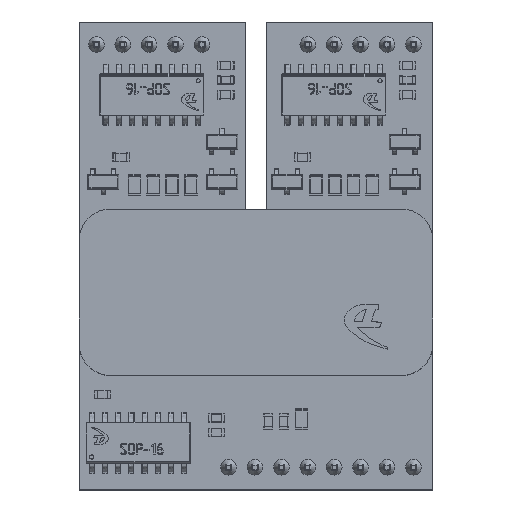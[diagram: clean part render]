
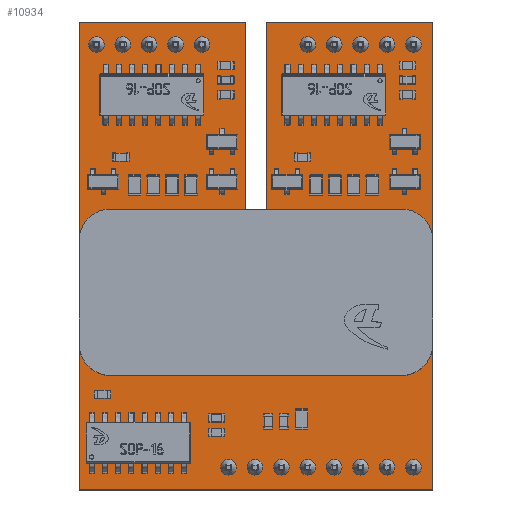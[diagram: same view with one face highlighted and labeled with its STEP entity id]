
A CAD part, top view. The second image highlights one B-rep face of the part: STEP entity #10934.
In plain terms, the highlighted planar face has unit normal (0, 0, 1).
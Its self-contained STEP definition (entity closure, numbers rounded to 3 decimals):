
#10934=ADVANCED_FACE('',(#25860,#25862,#25864,#25866,#25868,#25870,#25872,#25874,
#25876,#25878,#25880,#25882,#25884,#25886,#25888,#25890,#25892,#25894,#25896),#25898,
.T.);
#25860=FACE_BOUND('',#25861,.T.);
#25861=EDGE_LOOP('',(#53897,#53898,#53899,#53900,#53901,#53902,#53903,#53904));
#25862=FACE_BOUND('',#25863,.T.);
#25863=EDGE_LOOP('',(#53905));
#25864=FACE_BOUND('',#25865,.T.);
#25865=EDGE_LOOP('',(#53906));
#25866=FACE_BOUND('',#25867,.T.);
#25867=EDGE_LOOP('',(#53907));
#25868=FACE_BOUND('',#25869,.T.);
#25869=EDGE_LOOP('',(#53908));
#25870=FACE_BOUND('',#25871,.T.);
#25871=EDGE_LOOP('',(#53909));
#25872=FACE_BOUND('',#25873,.T.);
#25873=EDGE_LOOP('',(#53910));
#25874=FACE_BOUND('',#25875,.T.);
#25875=EDGE_LOOP('',(#53911));
#25876=FACE_BOUND('',#25877,.T.);
#25877=EDGE_LOOP('',(#53912));
#25878=FACE_BOUND('',#25879,.T.);
#25879=EDGE_LOOP('',(#53913));
#25880=FACE_BOUND('',#25881,.T.);
#25881=EDGE_LOOP('',(#53914));
#25882=FACE_BOUND('',#25883,.T.);
#25883=EDGE_LOOP('',(#53915));
#25884=FACE_BOUND('',#25885,.T.);
#25885=EDGE_LOOP('',(#53916));
#25886=FACE_BOUND('',#25887,.T.);
#25887=EDGE_LOOP('',(#53917));
#25888=FACE_BOUND('',#25889,.T.);
#25889=EDGE_LOOP('',(#53918));
#25890=FACE_BOUND('',#25891,.T.);
#25891=EDGE_LOOP('',(#53919));
#25892=FACE_BOUND('',#25893,.T.);
#25893=EDGE_LOOP('',(#53920));
#25894=FACE_BOUND('',#25895,.T.);
#25895=EDGE_LOOP('',(#53921));
#25896=FACE_BOUND('',#25897,.T.);
#25897=EDGE_LOOP('',(#53922));
#25898=PLANE('',#25899);
#25899=AXIS2_PLACEMENT_3D('',#25900,#25901,#25902);
#25900=CARTESIAN_POINT('',(0.,0.,1.5));
#25901=DIRECTION('',(0.,0.,1.));
#25902=DIRECTION('',(0.,1.,0.));
#53897=ORIENTED_EDGE('',*,*,#68489,.T.);
#53898=ORIENTED_EDGE('',*,*,#68504,.T.);
#53899=ORIENTED_EDGE('',*,*,#68503,.T.);
#53900=ORIENTED_EDGE('',*,*,#68500,.T.);
#53901=ORIENTED_EDGE('',*,*,#68498,.T.);
#53902=ORIENTED_EDGE('',*,*,#68496,.T.);
#53903=ORIENTED_EDGE('',*,*,#68494,.T.);
#53904=ORIENTED_EDGE('',*,*,#68493,.T.);
#53905=ORIENTED_EDGE('',*,*,#68665,.F.);
#53906=ORIENTED_EDGE('',*,*,#68666,.F.);
#53907=ORIENTED_EDGE('',*,*,#68667,.F.);
#53908=ORIENTED_EDGE('',*,*,#68668,.F.);
#53909=ORIENTED_EDGE('',*,*,#68669,.F.);
#53910=ORIENTED_EDGE('',*,*,#68670,.F.);
#53911=ORIENTED_EDGE('',*,*,#68671,.F.);
#53912=ORIENTED_EDGE('',*,*,#68672,.F.);
#53913=ORIENTED_EDGE('',*,*,#68673,.F.);
#53914=ORIENTED_EDGE('',*,*,#68674,.F.);
#53915=ORIENTED_EDGE('',*,*,#68675,.F.);
#53916=ORIENTED_EDGE('',*,*,#68676,.F.);
#53917=ORIENTED_EDGE('',*,*,#68677,.F.);
#53918=ORIENTED_EDGE('',*,*,#68678,.F.);
#53919=ORIENTED_EDGE('',*,*,#68679,.F.);
#53920=ORIENTED_EDGE('',*,*,#68680,.F.);
#53921=ORIENTED_EDGE('',*,*,#68681,.F.);
#53922=ORIENTED_EDGE('',*,*,#68682,.F.);
#68489=EDGE_CURVE('',#74931,#74932,#74933,.F.);
#68493=EDGE_CURVE('',#74936,#74931,#74938,.F.);
#68494=EDGE_CURVE('',#74939,#74936,#74940,.T.);
#68496=EDGE_CURVE('',#74942,#74939,#74943,.T.);
#68498=EDGE_CURVE('',#74945,#74942,#74946,.T.);
#68500=EDGE_CURVE('',#74948,#74945,#74949,.T.);
#68503=EDGE_CURVE('',#74951,#74948,#74953,.T.);
#68504=EDGE_CURVE('',#74932,#74951,#74954,.F.);
#68665=EDGE_CURVE('',#75195,#75195,#75196,.F.);
#68666=EDGE_CURVE('',#75197,#75197,#75198,.F.);
#68667=EDGE_CURVE('',#75199,#75199,#75200,.F.);
#68668=EDGE_CURVE('',#75201,#75201,#75202,.F.);
#68669=EDGE_CURVE('',#75203,#75203,#75204,.F.);
#68670=EDGE_CURVE('',#75205,#75205,#75206,.F.);
#68671=EDGE_CURVE('',#75207,#75207,#75208,.F.);
#68672=EDGE_CURVE('',#75209,#75209,#75210,.F.);
#68673=EDGE_CURVE('',#75211,#75211,#75212,.F.);
#68674=EDGE_CURVE('',#75213,#75213,#75214,.F.);
#68675=EDGE_CURVE('',#75215,#75215,#75216,.T.);
#68676=EDGE_CURVE('',#75217,#75217,#75218,.T.);
#68677=EDGE_CURVE('',#75219,#75219,#75220,.T.);
#68678=EDGE_CURVE('',#75221,#75221,#75222,.T.);
#68679=EDGE_CURVE('',#75223,#75223,#75224,.T.);
#68680=EDGE_CURVE('',#75225,#75225,#75226,.T.);
#68681=EDGE_CURVE('',#75227,#75227,#75228,.T.);
#68682=EDGE_CURVE('',#75229,#75229,#75230,.T.);
#74931=VERTEX_POINT('',#87999);
#74932=VERTEX_POINT('',#88000);
#74933=LINE('',#88001,#88002);
#74936=VERTEX_POINT('',#88010);
#74938=LINE('',#88014,#88015);
#74939=VERTEX_POINT('',#88017);
#74940=LINE('',#88018,#88019);
#74942=VERTEX_POINT('',#88024);
#74943=LINE('',#88025,#88026);
#74945=VERTEX_POINT('',#88031);
#74946=LINE('',#88032,#88033);
#74948=VERTEX_POINT('',#88038);
#74949=LINE('',#88039,#88040);
#74951=VERTEX_POINT('',#88045);
#74953=LINE('',#88049,#88050);
#74954=LINE('',#88052,#88053);
#75195=VERTEX_POINT('',#88655);
#75196=CIRCLE('',#88656,0.75);
#75197=VERTEX_POINT('',#88660);
#75198=CIRCLE('',#88661,0.75);
#75199=VERTEX_POINT('',#88665);
#75200=CIRCLE('',#88666,0.75);
#75201=VERTEX_POINT('',#88670);
#75202=CIRCLE('',#88671,0.75);
#75203=VERTEX_POINT('',#88675);
#75204=CIRCLE('',#88676,0.75);
#75205=VERTEX_POINT('',#88680);
#75206=CIRCLE('',#88681,0.75);
#75207=VERTEX_POINT('',#88685);
#75208=CIRCLE('',#88686,0.75);
#75209=VERTEX_POINT('',#88690);
#75210=CIRCLE('',#88691,0.75);
#75211=VERTEX_POINT('',#88695);
#75212=CIRCLE('',#88696,0.75);
#75213=VERTEX_POINT('',#88700);
#75214=CIRCLE('',#88701,0.75);
#75215=VERTEX_POINT('',#88705);
#75216=CIRCLE('',#88706,0.75);
#75217=VERTEX_POINT('',#88710);
#75218=CIRCLE('',#88711,0.75);
#75219=VERTEX_POINT('',#88715);
#75220=CIRCLE('',#88716,0.75);
#75221=VERTEX_POINT('',#88720);
#75222=CIRCLE('',#88721,0.75);
#75223=VERTEX_POINT('',#88725);
#75224=CIRCLE('',#88726,0.75);
#75225=VERTEX_POINT('',#88730);
#75226=CIRCLE('',#88731,0.75);
#75227=VERTEX_POINT('',#88735);
#75228=CIRCLE('',#88736,0.75);
#75229=VERTEX_POINT('',#88740);
#75230=CIRCLE('',#88741,0.75);
#87999=CARTESIAN_POINT('',(1.,4.5,1.5));
#88000=CARTESIAN_POINT('',(-1.,4.5,1.5));
#88001=CARTESIAN_POINT('',(-1.,4.5,1.5));
#88002=VECTOR('',#88003,1.);
#88003=DIRECTION('',(1.,0.,0.));
#88010=CARTESIAN_POINT('',(1.,22.5,1.5));
#88014=CARTESIAN_POINT('',(1.,4.5,1.5));
#88015=VECTOR('',#88016,1.);
#88016=DIRECTION('',(0.,1.,0.));
#88017=CARTESIAN_POINT('',(17.,22.5,1.5));
#88018=CARTESIAN_POINT('',(17.,22.5,1.5));
#88019=VECTOR('',#88020,1.);
#88020=DIRECTION('',(-1.,0.,0.));
#88024=CARTESIAN_POINT('',(17.,-22.5,1.5));
#88025=CARTESIAN_POINT('',(17.,-22.5,1.5));
#88026=VECTOR('',#88027,1.);
#88027=DIRECTION('',(0.,1.,0.));
#88031=CARTESIAN_POINT('',(-17.,-22.5,1.5));
#88032=CARTESIAN_POINT('',(-17.,-22.5,1.5));
#88033=VECTOR('',#88034,1.);
#88034=DIRECTION('',(1.,0.,0.));
#88038=CARTESIAN_POINT('',(-17.,22.5,1.5));
#88039=CARTESIAN_POINT('',(-17.,22.5,1.5));
#88040=VECTOR('',#88041,1.);
#88041=DIRECTION('',(0.,-1.,0.));
#88045=CARTESIAN_POINT('',(-1.,22.5,1.5));
#88049=CARTESIAN_POINT('',(-1.,22.5,1.5));
#88050=VECTOR('',#88051,1.);
#88051=DIRECTION('',(-1.,0.,0.));
#88052=CARTESIAN_POINT('',(-1.,22.5,1.5));
#88053=VECTOR('',#88054,1.);
#88054=DIRECTION('',(0.,-1.,0.));
#88655=CARTESIAN_POINT('',(-13.56,20.32,1.5));
#88656=AXIS2_PLACEMENT_3D('',#88657,#88658,#88659);
#88657=CARTESIAN_POINT('',(-12.81,20.32,1.5));
#88658=DIRECTION('',(0.,0.,-1.));
#88659=DIRECTION('',(-1.,0.,0.));
#88660=CARTESIAN_POINT('',(-11.02,20.32,1.5));
#88661=AXIS2_PLACEMENT_3D('',#88662,#88663,#88664);
#88662=CARTESIAN_POINT('',(-10.27,20.32,1.5));
#88663=DIRECTION('',(0.,0.,-1.));
#88664=DIRECTION('',(-1.,0.,0.));
#88665=CARTESIAN_POINT('',(-8.48,20.32,1.5));
#88666=AXIS2_PLACEMENT_3D('',#88667,#88668,#88669);
#88667=CARTESIAN_POINT('',(-7.73,20.32,1.5));
#88668=DIRECTION('',(0.,0.,-1.));
#88669=DIRECTION('',(-1.,0.,0.));
#88670=CARTESIAN_POINT('',(-5.94,20.32,1.5));
#88671=AXIS2_PLACEMENT_3D('',#88672,#88673,#88674);
#88672=CARTESIAN_POINT('',(-5.19,20.32,1.5));
#88673=DIRECTION('',(0.,0.,-1.));
#88674=DIRECTION('',(-1.,0.,0.));
#88675=CARTESIAN_POINT('',(-16.1,20.32,1.5));
#88676=AXIS2_PLACEMENT_3D('',#88677,#88678,#88679);
#88677=CARTESIAN_POINT('',(-15.35,20.32,1.5));
#88678=DIRECTION('',(0.,0.,-1.));
#88679=DIRECTION('',(-1.,0.,0.));
#88680=CARTESIAN_POINT('',(11.85,20.32,1.5));
#88681=AXIS2_PLACEMENT_3D('',#88682,#88683,#88684);
#88682=CARTESIAN_POINT('',(12.6,20.32,1.5));
#88683=DIRECTION('',(0.,0.,-1.));
#88684=DIRECTION('',(-1.,0.,0.));
#88685=CARTESIAN_POINT('',(9.31,20.32,1.5));
#88686=AXIS2_PLACEMENT_3D('',#88687,#88688,#88689);
#88687=CARTESIAN_POINT('',(10.06,20.32,1.5));
#88688=DIRECTION('',(0.,0.,-1.));
#88689=DIRECTION('',(-1.,0.,0.));
#88690=CARTESIAN_POINT('',(6.77,20.32,1.5));
#88691=AXIS2_PLACEMENT_3D('',#88692,#88693,#88694);
#88692=CARTESIAN_POINT('',(7.52,20.32,1.5));
#88693=DIRECTION('',(0.,0.,-1.));
#88694=DIRECTION('',(-1.,0.,0.));
#88695=CARTESIAN_POINT('',(4.23,20.32,1.5));
#88696=AXIS2_PLACEMENT_3D('',#88697,#88698,#88699);
#88697=CARTESIAN_POINT('',(4.98,20.32,1.5));
#88698=DIRECTION('',(0.,0.,-1.));
#88699=DIRECTION('',(-1.,0.,0.));
#88700=CARTESIAN_POINT('',(14.39,20.32,1.5));
#88701=AXIS2_PLACEMENT_3D('',#88702,#88703,#88704);
#88702=CARTESIAN_POINT('',(15.14,20.32,1.5));
#88703=DIRECTION('',(0.,0.,-1.));
#88704=DIRECTION('',(-1.,0.,0.));
#88705=CARTESIAN_POINT('',(11.85,-20.32,1.5));
#88706=AXIS2_PLACEMENT_3D('',#88707,#88708,#88709);
#88707=CARTESIAN_POINT('',(12.6,-20.32,1.5));
#88708=DIRECTION('',(0.,0.,1.));
#88709=DIRECTION('',(-1.,0.,0.));
#88710=CARTESIAN_POINT('',(9.31,-20.32,1.5));
#88711=AXIS2_PLACEMENT_3D('',#88712,#88713,#88714);
#88712=CARTESIAN_POINT('',(10.06,-20.32,1.5));
#88713=DIRECTION('',(0.,0.,1.));
#88714=DIRECTION('',(-1.,0.,0.));
#88715=CARTESIAN_POINT('',(6.77,-20.32,1.5));
#88716=AXIS2_PLACEMENT_3D('',#88717,#88718,#88719);
#88717=CARTESIAN_POINT('',(7.52,-20.32,1.5));
#88718=DIRECTION('',(0.,0.,1.));
#88719=DIRECTION('',(-1.,0.,0.));
#88720=CARTESIAN_POINT('',(4.23,-20.32,1.5));
#88721=AXIS2_PLACEMENT_3D('',#88722,#88723,#88724);
#88722=CARTESIAN_POINT('',(4.98,-20.32,1.5));
#88723=DIRECTION('',(0.,0.,1.));
#88724=DIRECTION('',(-1.,0.,0.));
#88725=CARTESIAN_POINT('',(1.69,-20.32,1.5));
#88726=AXIS2_PLACEMENT_3D('',#88727,#88728,#88729);
#88727=CARTESIAN_POINT('',(2.44,-20.32,1.5));
#88728=DIRECTION('',(0.,0.,1.));
#88729=DIRECTION('',(-1.,0.,0.));
#88730=CARTESIAN_POINT('',(-0.85,-20.32,1.5));
#88731=AXIS2_PLACEMENT_3D('',#88732,#88733,#88734);
#88732=CARTESIAN_POINT('',(-0.1,-20.32,1.5));
#88733=DIRECTION('',(0.,0.,1.));
#88734=DIRECTION('',(-1.,0.,0.));
#88735=CARTESIAN_POINT('',(-3.39,-20.32,1.5));
#88736=AXIS2_PLACEMENT_3D('',#88737,#88738,#88739);
#88737=CARTESIAN_POINT('',(-2.64,-20.32,1.5));
#88738=DIRECTION('',(0.,0.,1.));
#88739=DIRECTION('',(-1.,0.,0.));
#88740=CARTESIAN_POINT('',(14.39,-20.32,1.5));
#88741=AXIS2_PLACEMENT_3D('',#88742,#88743,#88744);
#88742=CARTESIAN_POINT('',(15.14,-20.32,1.5));
#88743=DIRECTION('',(0.,0.,1.));
#88744=DIRECTION('',(-1.,0.,0.));
